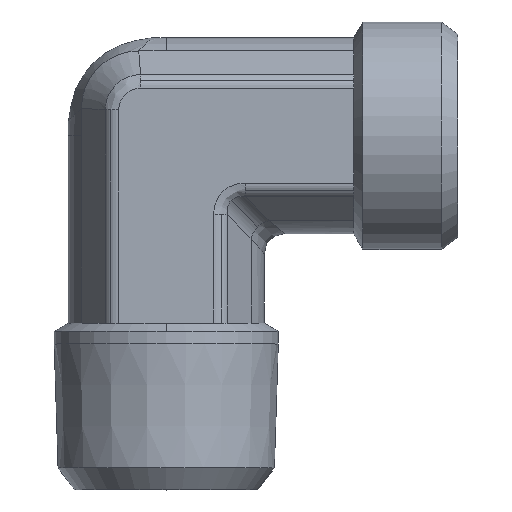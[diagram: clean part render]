
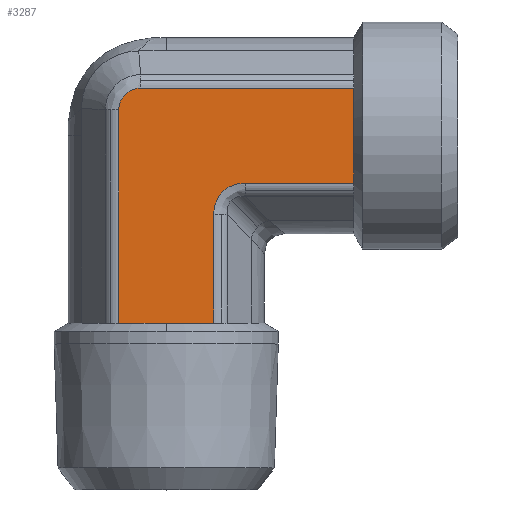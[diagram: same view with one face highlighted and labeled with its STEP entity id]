
A CAD part, top view. The second image highlights one B-rep face of the part: STEP entity #3287.
In plain terms, the highlighted planar face has unit normal (0, 0, 1) as drawn and (0, -1, 0) by its records, which use the part's own axes.
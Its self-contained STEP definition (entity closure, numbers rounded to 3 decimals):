
#361=CARTESIAN_POINT('',(3.092,-9.4,4.561));
#362=VERTEX_POINT('',#361);
#370=CARTESIAN_POINT('',(13.5,-9.4,4.561));
#371=VERTEX_POINT('',#370);
#372=CARTESIAN_POINT('',(3.092,-9.4,4.561));
#373=DIRECTION('',(1.0,0.0,0.0));
#374=VECTOR('',#373,10.408);
#375=LINE('',#372,#374);
#376=EDGE_CURVE('',#362,#371,#375,.T.);
#485=CARTESIAN_POINT('',(-9.061,-9.4,-2.461));
#486=VERTEX_POINT('',#485);
#494=CARTESIAN_POINT('',(-9.061,-9.4,18.0));
#495=VERTEX_POINT('',#494);
#496=CARTESIAN_POINT('',(-9.061,-9.4,-2.461));
#497=DIRECTION('',(0.0,0.0,1.0));
#498=VECTOR('',#497,20.461);
#499=LINE('',#496,#498);
#500=EDGE_CURVE('',#486,#495,#499,.T.);
#753=CARTESIAN_POINT('',(13.5,-9.4,0.));
#754=VERTEX_POINT('',#753);
#2156=CARTESIAN_POINT('',(-4.5,-9.4,18.0));
#2157=VERTEX_POINT('',#2156);
#2305=CARTESIAN_POINT('',(-4.5,-9.4,18.0));
#2306=DIRECTION('',(-1.0,0.0,0.0));
#2307=VECTOR('',#2306,4.561);
#2308=LINE('',#2305,#2307);
#2309=EDGE_CURVE('',#2157,#495,#2308,.T.);
#2382=CARTESIAN_POINT('',(0.061,-9.4,18.0));
#2383=VERTEX_POINT('',#2382);
#2384=CARTESIAN_POINT('',(0.061,-9.4,18.0));
#2385=DIRECTION('',(-1.0,0.0,0.0));
#2386=VECTOR('',#2385,4.561);
#2387=LINE('',#2384,#2386);
#2388=EDGE_CURVE('',#2383,#2157,#2387,.T.);
#2480=CARTESIAN_POINT('',(13.5,-9.4,-4.561));
#2481=VERTEX_POINT('',#2480);
#2482=CARTESIAN_POINT('',(13.5,-9.4,-4.561));
#2483=DIRECTION('',(0.0,0.0,1.0));
#2484=VECTOR('',#2483,4.561);
#2485=LINE('',#2482,#2484);
#2486=EDGE_CURVE('',#2481,#754,#2485,.T.);
#2527=CARTESIAN_POINT('',(13.5,-9.4,0.));
#2528=DIRECTION('',(0.0,0.0,1.0));
#2529=VECTOR('',#2528,4.561);
#2530=LINE('',#2527,#2529);
#2531=EDGE_CURVE('',#754,#371,#2530,.T.);
#2971=CARTESIAN_POINT('',(-6.961,-9.4,-4.561));
#2972=VERTEX_POINT('',#2971);
#2980=CARTESIAN_POINT('',(-9.061,-9.4,-2.461));
#2981=CARTESIAN_POINT('',(-9.061,-9.4,-2.598));
#2982=CARTESIAN_POINT('',(-9.048,-9.4,-2.736));
#2983=CARTESIAN_POINT('',(-8.977,-9.4,-3.088));
#2984=CARTESIAN_POINT('',(-8.901,-9.4,-3.296));
#2985=CARTESIAN_POINT('',(-8.62,-9.4,-3.796));
#2986=CARTESIAN_POINT('',(-8.37,-9.4,-4.058));
#2987=CARTESIAN_POINT('',(-7.737,-9.4,-4.451));
#2988=CARTESIAN_POINT('',(-7.349,-9.4,-4.561));
#2989=CARTESIAN_POINT('',(-6.961,-9.4,-4.561));
#2990=B_SPLINE_CURVE_WITH_KNOTS('',3,(#2980,#2981,#2982,#2983,#2984,#2985,#2986,#2987,#2988,#2989),.UNSPECIFIED.,.F.,.U.,(4,2,2,2,4),(-3.281,-2.871,-2.215,-1.165,0.0),.UNSPECIFIED.);
#2991=EDGE_CURVE('',#2972,#486,#2990,.F.);
#3018=CARTESIAN_POINT('',(13.5,-9.4,-4.561));
#3019=DIRECTION('',(-1.0,0.0,0.0));
#3020=VECTOR('',#3019,20.461);
#3021=LINE('',#3018,#3020);
#3022=EDGE_CURVE('',#2481,#2972,#3021,.T.);
#3154=CARTESIAN_POINT('',(0.061,-9.4,7.592));
#3155=VERTEX_POINT('',#3154);
#3156=CARTESIAN_POINT('',(0.061,-9.4,18.0));
#3157=DIRECTION('',(0.0,0.0,-1.0));
#3158=VECTOR('',#3157,10.408);
#3159=LINE('',#3156,#3158);
#3160=EDGE_CURVE('',#2383,#3155,#3159,.T.);
#3243=CARTESIAN_POINT('',(4.103,-9.4,8.603));
#3244=DIRECTION('',(0.,-1.0,0.));
#3245=DIRECTION('',(-0.707,0.,-0.707));
#3246=AXIS2_PLACEMENT_3D('',#3243,#3244,#3245);
#3247=ELLIPSE('',#3246,4.518,3.5);
#3248=EDGE_CURVE('',#3155,#362,#3247,.T.);
#3270=CARTESIAN_POINT('',(-4.5,-9.4,-3.175));
#3271=DIRECTION('',(0.0,-1.0,0.0));
#3272=DIRECTION('',(0.0,0.0,-1.0));
#3273=AXIS2_PLACEMENT_3D('',#3270,#3271,#3272);
#3274=PLANE('',#3273);
#3275=ORIENTED_EDGE('',*,*,#3022,.F.);
#3276=ORIENTED_EDGE('',*,*,#2486,.T.);
#3277=ORIENTED_EDGE('',*,*,#2531,.T.);
#3278=ORIENTED_EDGE('',*,*,#376,.F.);
#3279=ORIENTED_EDGE('',*,*,#3248,.F.);
#3280=ORIENTED_EDGE('',*,*,#3160,.F.);
#3281=ORIENTED_EDGE('',*,*,#2388,.T.);
#3282=ORIENTED_EDGE('',*,*,#2309,.T.);
#3283=ORIENTED_EDGE('',*,*,#500,.F.);
#3284=ORIENTED_EDGE('',*,*,#2991,.F.);
#3285=EDGE_LOOP('',(#3275,#3276,#3277,#3278,#3279,#3280,#3281,#3282,#3283,#3284));
#3286=FACE_OUTER_BOUND('',#3285,.T.);
#3287=ADVANCED_FACE('',(#3286),#3274,.T.);
